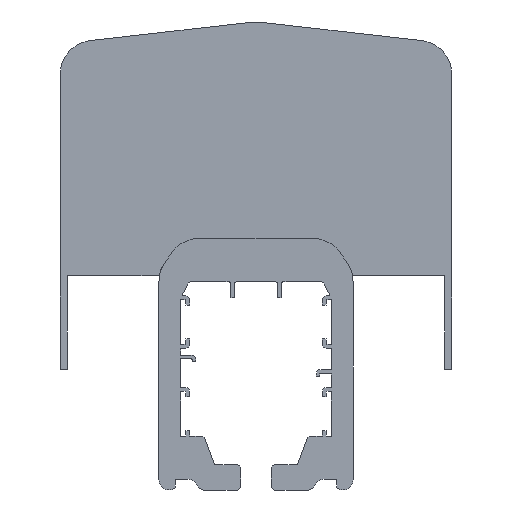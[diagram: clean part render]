
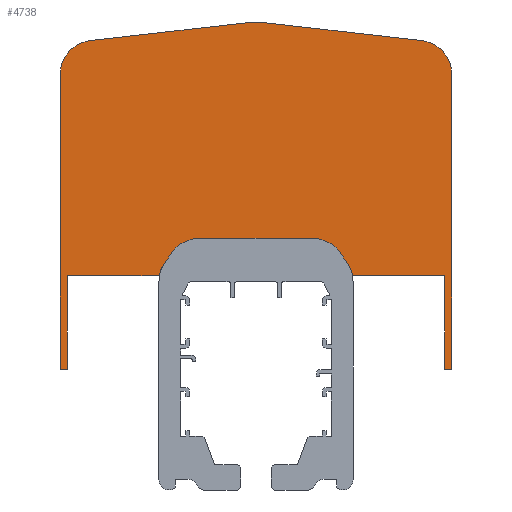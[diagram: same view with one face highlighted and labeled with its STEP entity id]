
A CAD part, front view. The second image highlights one B-rep face of the part: STEP entity #4738.
In plain terms, the highlighted planar face has unit normal (0, -1, 0).
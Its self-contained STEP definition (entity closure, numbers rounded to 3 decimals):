
#21=CIRCLE('',#4746,9.);
#23=CIRCLE('',#4751,9.);
#28=CIRCLE('',#4764,9.);
#151=CIRCLE('',#5038,9.1);
#153=CIRCLE('',#5045,9.5);
#155=CIRCLE('',#5049,11.251);
#157=CIRCLE('',#5053,9.5);
#1241=ORIENTED_EDGE('',*,*,#1268,.T.);
#1242=ORIENTED_EDGE('',*,*,#1302,.T.);
#1243=ORIENTED_EDGE('',*,*,#1754,.T.);
#1244=ORIENTED_EDGE('',*,*,#1755,.T.);
#1245=ORIENTED_EDGE('',*,*,#1758,.T.);
#1246=ORIENTED_EDGE('',*,*,#1761,.T.);
#1247=ORIENTED_EDGE('',*,*,#1764,.T.);
#1248=ORIENTED_EDGE('',*,*,#1767,.T.);
#1249=ORIENTED_EDGE('',*,*,#1770,.T.);
#1250=ORIENTED_EDGE('',*,*,#1773,.T.);
#1251=ORIENTED_EDGE('',*,*,#1776,.T.);
#1252=ORIENTED_EDGE('',*,*,#1737,.T.);
#1253=ORIENTED_EDGE('',*,*,#1741,.T.);
#1254=ORIENTED_EDGE('',*,*,#1744,.T.);
#1255=ORIENTED_EDGE('',*,*,#1747,.T.);
#1256=ORIENTED_EDGE('',*,*,#1750,.T.);
#1257=ORIENTED_EDGE('',*,*,#1271,.T.);
#1258=ORIENTED_EDGE('',*,*,#1275,.T.);
#1259=ORIENTED_EDGE('',*,*,#1261,.T.);
#1260=ORIENTED_EDGE('',*,*,#1265,.T.);
#1261=EDGE_CURVE('',#1778,#1779,#2122,.T.);
#1265=EDGE_CURVE('',#1779,#1782,#21,.T.);
#1268=EDGE_CURVE('',#1782,#1784,#2127,.T.);
#1271=EDGE_CURVE('',#1786,#1787,#2130,.T.);
#1275=EDGE_CURVE('',#1787,#1778,#23,.T.);
#1302=EDGE_CURVE('',#1784,#1809,#28,.T.);
#1737=EDGE_CURVE('',#2096,#2097,#2468,.T.);
#1741=EDGE_CURVE('',#2097,#2100,#2472,.T.);
#1744=EDGE_CURVE('',#2100,#2102,#2475,.T.);
#1747=EDGE_CURVE('',#2102,#2104,#2478,.T.);
#1750=EDGE_CURVE('',#2104,#1786,#151,.T.);
#1754=EDGE_CURVE('',#1809,#2107,#2483,.T.);
#1755=EDGE_CURVE('',#2107,#2108,#2484,.T.);
#1758=EDGE_CURVE('',#2108,#2110,#2487,.T.);
#1761=EDGE_CURVE('',#2110,#2112,#2490,.T.);
#1764=EDGE_CURVE('',#2112,#2114,#153,.T.);
#1767=EDGE_CURVE('',#2114,#2116,#2494,.T.);
#1770=EDGE_CURVE('',#2116,#2118,#155,.T.);
#1773=EDGE_CURVE('',#2118,#2120,#2498,.T.);
#1776=EDGE_CURVE('',#2120,#2096,#157,.T.);
#1778=VERTEX_POINT('',#6067);
#1779=VERTEX_POINT('',#6068);
#1782=VERTEX_POINT('',#6076);
#1784=VERTEX_POINT('',#6082);
#1786=VERTEX_POINT('',#6088);
#1787=VERTEX_POINT('',#6089);
#1809=VERTEX_POINT('',#6150);
#2096=VERTEX_POINT('',#7020);
#2097=VERTEX_POINT('',#7021);
#2100=VERTEX_POINT('',#7029);
#2102=VERTEX_POINT('',#7035);
#2104=VERTEX_POINT('',#7041);
#2107=VERTEX_POINT('',#7052);
#2108=VERTEX_POINT('',#7056);
#2110=VERTEX_POINT('',#7062);
#2112=VERTEX_POINT('',#7068);
#2114=VERTEX_POINT('',#7074);
#2116=VERTEX_POINT('',#7080);
#2118=VERTEX_POINT('',#7086);
#2120=VERTEX_POINT('',#7092);
#2122=LINE('',#6066,#2501);
#2127=LINE('',#6081,#2506);
#2130=LINE('',#6087,#2509);
#2468=LINE('',#7019,#2847);
#2472=LINE('',#7028,#2851);
#2475=LINE('',#7034,#2854);
#2478=LINE('',#7040,#2857);
#2483=LINE('',#7053,#2862);
#2484=LINE('',#7055,#2863);
#2487=LINE('',#7061,#2866);
#2490=LINE('',#7067,#2869);
#2494=LINE('',#7079,#2873);
#2498=LINE('',#7091,#2877);
#2501=VECTOR('',#5061,1000.);
#2506=VECTOR('',#5074,1000.);
#2509=VECTOR('',#5079,1000.);
#2847=VECTOR('',#5985,1000.);
#2851=VECTOR('',#5991,1000.);
#2854=VECTOR('',#5996,1000.);
#2857=VECTOR('',#6001,1000.);
#2862=VECTOR('',#6014,1000.);
#2863=VECTOR('',#6017,1000.);
#2866=VECTOR('',#6022,1000.);
#2869=VECTOR('',#6027,1000.);
#2873=VECTOR('',#6039,1000.);
#2877=VECTOR('',#6051,1000.);
#3054=EDGE_LOOP('',(#1241,#1242,#1243,#1244,#1245,#1246,#1247,#1248,#1249,
#1250,#1251,#1252,#1253,#1254,#1255,#1256,#1257,#1258,#1259,#1260));
#3229=FACE_BOUND('',#3054,.T.);
#3336=PLANE('',#5056);
#4738=ADVANCED_FACE('',(#3229),#3336,.F.);
#4746=AXIS2_PLACEMENT_3D('',#6075,#5067,#5068);
#4751=AXIS2_PLACEMENT_3D('',#6096,#5085,#5086);
#4764=AXIS2_PLACEMENT_3D('',#6151,#5133,#5134);
#5038=AXIS2_PLACEMENT_3D('',#7046,#6006,#6007);
#5045=AXIS2_PLACEMENT_3D('',#7073,#6032,#6033);
#5049=AXIS2_PLACEMENT_3D('',#7085,#6044,#6045);
#5053=AXIS2_PLACEMENT_3D('',#7097,#6056,#6057);
#5056=AXIS2_PLACEMENT_3D('',#7100,#6062,#6063);
#5061=DIRECTION('',(1.,0.,0.));
#5067=DIRECTION('',(0.,1.,0.));
#5068=DIRECTION('',(1.,0.,0.));
#5074=DIRECTION('',(0.588,0.,-0.809));
#5079=DIRECTION('',(0.588,0.,0.809));
#5085=DIRECTION('',(0.,1.,0.));
#5086=DIRECTION('',(1.,0.,0.));
#5133=DIRECTION('',(0.,1.,0.));
#5134=DIRECTION('',(0.,0.,1.));
#5985=DIRECTION('',(0.,0.,-1.));
#5991=DIRECTION('',(1.,0.,0.));
#5996=DIRECTION('',(0.,0.,1.));
#6001=DIRECTION('',(1.,0.,0.));
#6006=DIRECTION('',(0.,1.,0.));
#6007=DIRECTION('',(1.,0.,0.));
#6014=DIRECTION('',(1.,0.,0.));
#6017=DIRECTION('',(0.,0.,-1.));
#6022=DIRECTION('',(1.,0.,0.));
#6027=DIRECTION('',(0.,0.,1.));
#6032=DIRECTION('',(0.,-1.,0.));
#6033=DIRECTION('',(1.,0.,0.));
#6039=DIRECTION('',(-0.994,0.,0.113));
#6044=DIRECTION('',(0.,-1.,0.));
#6045=DIRECTION('',(1.,0.,0.));
#6051=DIRECTION('',(-0.994,0.,-0.113));
#6056=DIRECTION('',(0.,-1.,0.));
#6057=DIRECTION('',(1.,0.,0.));
#6062=DIRECTION('',(0.,1.,0.));
#6063=DIRECTION('',(0.,0.,1.));
#6066=CARTESIAN_POINT('',(-15.914,-150.,12.109));
#6067=CARTESIAN_POINT('',(-15.914,-150.,12.109));
#6068=CARTESIAN_POINT('',(15.914,-150.,12.109));
#6075=CARTESIAN_POINT('',(15.914,-150.,3.109));
#6076=CARTESIAN_POINT('',(23.195,-150.,8.399));
#6081=CARTESIAN_POINT('',(25.281,-150.,5.528));
#6082=CARTESIAN_POINT('',(25.281,-150.,5.528));
#6087=CARTESIAN_POINT('',(-23.195,-150.,8.399));
#6088=CARTESIAN_POINT('',(-25.281,-150.,5.528));
#6089=CARTESIAN_POINT('',(-23.195,-150.,8.399));
#6096=CARTESIAN_POINT('',(-15.914,-150.,3.109));
#6150=CARTESIAN_POINT('',(26.874,-150.,1.738));
#6151=CARTESIAN_POINT('',(18.,-150.,0.238));
#7019=CARTESIAN_POINT('',(-54.5,-150.,57.752));
#7020=CARTESIAN_POINT('',(-54.5,-150.,57.752));
#7021=CARTESIAN_POINT('',(-54.5,-150.,-24.262));
#7028=CARTESIAN_POINT('',(-54.5,-150.,-24.262));
#7029=CARTESIAN_POINT('',(-52.5,-150.,-24.262));
#7034=CARTESIAN_POINT('',(-52.5,-150.,-24.262));
#7035=CARTESIAN_POINT('',(-52.5,-150.,1.738));
#7040=CARTESIAN_POINT('',(-52.5,-150.,1.738));
#7041=CARTESIAN_POINT('',(-26.953,-150.,1.738));
#7046=CARTESIAN_POINT('',(-18.01,-150.,0.057));
#7052=CARTESIAN_POINT('',(52.5,-150.,1.738));
#7053=CARTESIAN_POINT('',(52.5,-150.,1.738));
#7055=CARTESIAN_POINT('',(52.5,-150.,-24.262));
#7056=CARTESIAN_POINT('',(52.5,-150.,-24.262));
#7061=CARTESIAN_POINT('',(52.5,-150.,-24.262));
#7062=CARTESIAN_POINT('',(54.5,-150.,-24.262));
#7067=CARTESIAN_POINT('',(54.5,-150.,-24.262));
#7068=CARTESIAN_POINT('',(54.5,-150.,57.755));
#7073=CARTESIAN_POINT('',(45.,-150.,57.752));
#7074=CARTESIAN_POINT('',(46.075,-150.,67.191));
#7079=CARTESIAN_POINT('',(1.274,-150.,72.296));
#7080=CARTESIAN_POINT('',(1.274,-150.,72.296));
#7085=CARTESIAN_POINT('',(0.,-150.,61.117));
#7086=CARTESIAN_POINT('',(-1.274,-150.,72.296));
#7091=CARTESIAN_POINT('',(-46.075,-150.,67.191));
#7092=CARTESIAN_POINT('',(-46.075,-150.,67.191));
#7097=CARTESIAN_POINT('',(-45.,-150.,57.752));
#7100=CARTESIAN_POINT('',(-18.01,-150.,0.057));
